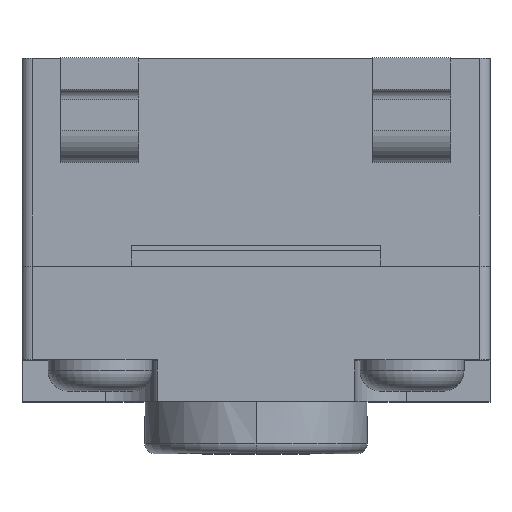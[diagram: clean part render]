
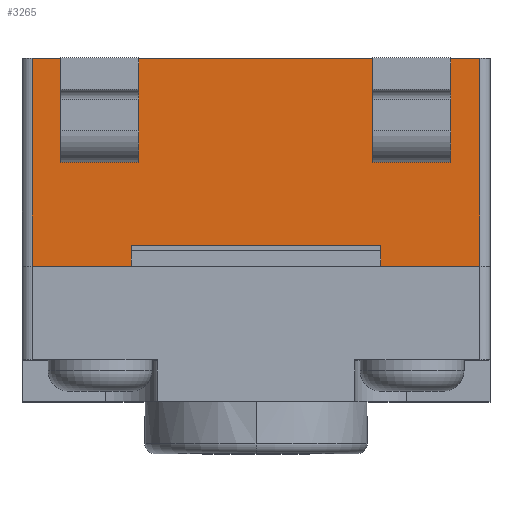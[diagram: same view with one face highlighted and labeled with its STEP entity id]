
A CAD part, top view. The second image highlights one B-rep face of the part: STEP entity #3265.
In plain terms, the highlighted planar face has unit normal (0, 0, 1).
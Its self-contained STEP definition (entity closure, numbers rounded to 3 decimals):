
#198=DIRECTION('',(1.,0.,0.));
#199=VECTOR('',#198,0.95);
#200=CARTESIAN_POINT('',(-2.15,0.,2.25));
#201=LINE('',#200,#199);
#226=DIRECTION('',(1.,0.,0.));
#227=VECTOR('',#226,0.95);
#228=CARTESIAN_POINT('',(1.2,0.,2.25));
#229=LINE('',#228,#227);
#840=DIRECTION('',(0.,-1.,0.));
#841=VECTOR('',#840,0.3);
#842=CARTESIAN_POINT('',(1.125,1.3,2.25));
#843=LINE('',#842,#841);
#847=DIRECTION('',(1.,0.,0.));
#848=VECTOR('',#847,0.75);
#849=CARTESIAN_POINT('',(1.125,1.,2.25));
#850=LINE('',#849,#848);
#854=DIRECTION('',(0.,-1.,0.));
#855=VECTOR('',#854,0.3);
#856=CARTESIAN_POINT('',(1.875,1.3,2.25));
#857=LINE('',#856,#855);
#861=DIRECTION('',(1.,0.,0.));
#862=VECTOR('',#861,0.75);
#863=CARTESIAN_POINT('',(1.125,1.3,2.25));
#864=LINE('',#863,#862);
#868=DIRECTION('',(0.,-1.,0.));
#869=VECTOR('',#868,0.3);
#870=CARTESIAN_POINT('',(-1.125,1.3,2.25));
#871=LINE('',#870,#869);
#875=DIRECTION('',(-1.,0.,0.));
#876=VECTOR('',#875,0.75);
#877=CARTESIAN_POINT('',(-1.125,1.3,2.25));
#878=LINE('',#877,#876);
#882=DIRECTION('',(0.,-1.,0.));
#883=VECTOR('',#882,0.3);
#884=CARTESIAN_POINT('',(-1.875,1.3,2.25));
#885=LINE('',#884,#883);
#889=DIRECTION('',(-1.,0.,0.));
#890=VECTOR('',#889,0.75);
#891=CARTESIAN_POINT('',(-1.125,1.,2.25));
#892=LINE('',#891,#890);
#896=DIRECTION('',(0.,-1.,0.));
#897=VECTOR('',#896,2.);
#898=CARTESIAN_POINT('',(2.15,2.,2.25));
#899=LINE('',#898,#897);
#903=DIRECTION('',(0.,1.,0.));
#904=VECTOR('',#903,0.2);
#905=CARTESIAN_POINT('',(1.2,0.,2.25));
#906=LINE('',#905,#904);
#910=DIRECTION('',(1.,0.,0.));
#911=VECTOR('',#910,2.4);
#912=CARTESIAN_POINT('',(-1.2,0.2,2.25));
#913=LINE('',#912,#911);
#917=DIRECTION('',(0.,1.,0.));
#918=VECTOR('',#917,0.2);
#919=CARTESIAN_POINT('',(-1.2,0.,2.25));
#920=LINE('',#919,#918);
#924=DIRECTION('',(0.,-1.,0.));
#925=VECTOR('',#924,2.);
#926=CARTESIAN_POINT('',(-2.15,2.,2.25));
#927=LINE('',#926,#925);
#1915=DIRECTION('',(1.,0.,0.));
#1916=VECTOR('',#1915,4.3);
#1917=CARTESIAN_POINT('',(-2.15,2.,2.25));
#1918=LINE('',#1917,#1916);
#2238=CARTESIAN_POINT('',(1.2,0.,2.25));
#2240=VERTEX_POINT('',#2238);
#2242=CARTESIAN_POINT('',(-1.2,0.,2.25));
#2244=VERTEX_POINT('',#2242);
#2246=CARTESIAN_POINT('',(-1.2,0.2,2.25));
#2247=CARTESIAN_POINT('',(1.2,0.2,2.25));
#2248=VERTEX_POINT('',#2246);
#2249=VERTEX_POINT('',#2247);
#2322=CARTESIAN_POINT('',(1.125,1.3,2.25));
#2323=CARTESIAN_POINT('',(1.125,1.,2.25));
#2324=VERTEX_POINT('',#2322);
#2325=VERTEX_POINT('',#2323);
#2326=CARTESIAN_POINT('',(1.875,1.3,2.25));
#2327=CARTESIAN_POINT('',(1.875,1.,2.25));
#2328=VERTEX_POINT('',#2326);
#2329=VERTEX_POINT('',#2327);
#2354=CARTESIAN_POINT('',(-1.125,1.3,2.25));
#2355=CARTESIAN_POINT('',(-1.125,1.,2.25));
#2356=VERTEX_POINT('',#2354);
#2357=VERTEX_POINT('',#2355);
#2358=CARTESIAN_POINT('',(-1.875,1.3,2.25));
#2359=CARTESIAN_POINT('',(-1.875,1.,2.25));
#2360=VERTEX_POINT('',#2358);
#2361=VERTEX_POINT('',#2359);
#2443=CARTESIAN_POINT('',(2.15,0.,2.25));
#2445=VERTEX_POINT('',#2443);
#2446=CARTESIAN_POINT('',(2.15,2.,2.25));
#2447=VERTEX_POINT('',#2446);
#2458=CARTESIAN_POINT('',(-2.15,0.,2.25));
#2460=VERTEX_POINT('',#2458);
#2464=CARTESIAN_POINT('',(-2.15,2.,2.25));
#2465=VERTEX_POINT('',#2464);
#3225=CARTESIAN_POINT('',(-2.25,0.,2.25));
#3226=DIRECTION('',(0.,0.,1.));
#3227=DIRECTION('',(1.,0.,0.));
#3228=AXIS2_PLACEMENT_3D('',#3225,#3226,#3227);
#3229=PLANE('',#3228);
#3230=ORIENTED_EDGE('',*,*,#3217,.T.);
#3231=ORIENTED_EDGE('',*,*,#2569,.F.);
#3233=ORIENTED_EDGE('',*,*,#3232,.T.);
#3235=ORIENTED_EDGE('',*,*,#3234,.F.);
#3237=ORIENTED_EDGE('',*,*,#3236,.F.);
#3238=ORIENTED_EDGE('',*,*,#2561,.F.);
#3240=ORIENTED_EDGE('',*,*,#3239,.F.);
#3242=ORIENTED_EDGE('',*,*,#3241,.T.);
#3243=EDGE_LOOP('',(#3230,#3231,#3233,#3235,#3237,#3238,#3240,#3242));
#3244=FACE_OUTER_BOUND('',#3243,.F.);
#3246=ORIENTED_EDGE('',*,*,#3245,.F.);
#3248=ORIENTED_EDGE('',*,*,#3247,.T.);
#3250=ORIENTED_EDGE('',*,*,#3249,.T.);
#3252=ORIENTED_EDGE('',*,*,#3251,.F.);
#3253=EDGE_LOOP('',(#3246,#3248,#3250,#3252));
#3254=FACE_BOUND('',#3253,.F.);
#3256=ORIENTED_EDGE('',*,*,#3255,.T.);
#3258=ORIENTED_EDGE('',*,*,#3257,.T.);
#3260=ORIENTED_EDGE('',*,*,#3259,.F.);
#3262=ORIENTED_EDGE('',*,*,#3261,.F.);
#3263=EDGE_LOOP('',(#3256,#3258,#3260,#3262));
#3264=FACE_BOUND('',#3263,.F.);
#2561=EDGE_CURVE('',#2460,#2244,#201,.T.);
#2569=EDGE_CURVE('',#2240,#2445,#229,.T.);
#3217=EDGE_CURVE('',#2447,#2445,#899,.T.);
#3232=EDGE_CURVE('',#2240,#2249,#906,.T.);
#3234=EDGE_CURVE('',#2248,#2249,#913,.T.);
#3236=EDGE_CURVE('',#2244,#2248,#920,.T.);
#3239=EDGE_CURVE('',#2465,#2460,#927,.T.);
#3241=EDGE_CURVE('',#2465,#2447,#1918,.T.);
#3245=EDGE_CURVE('',#2356,#2357,#871,.T.);
#3247=EDGE_CURVE('',#2356,#2360,#878,.T.);
#3249=EDGE_CURVE('',#2360,#2361,#885,.T.);
#3251=EDGE_CURVE('',#2357,#2361,#892,.T.);
#3255=EDGE_CURVE('',#2324,#2325,#843,.T.);
#3257=EDGE_CURVE('',#2325,#2329,#850,.T.);
#3259=EDGE_CURVE('',#2328,#2329,#857,.T.);
#3261=EDGE_CURVE('',#2324,#2328,#864,.T.);
#3265=ADVANCED_FACE('',(#3244,#3254,#3264),#3229,.T.);
